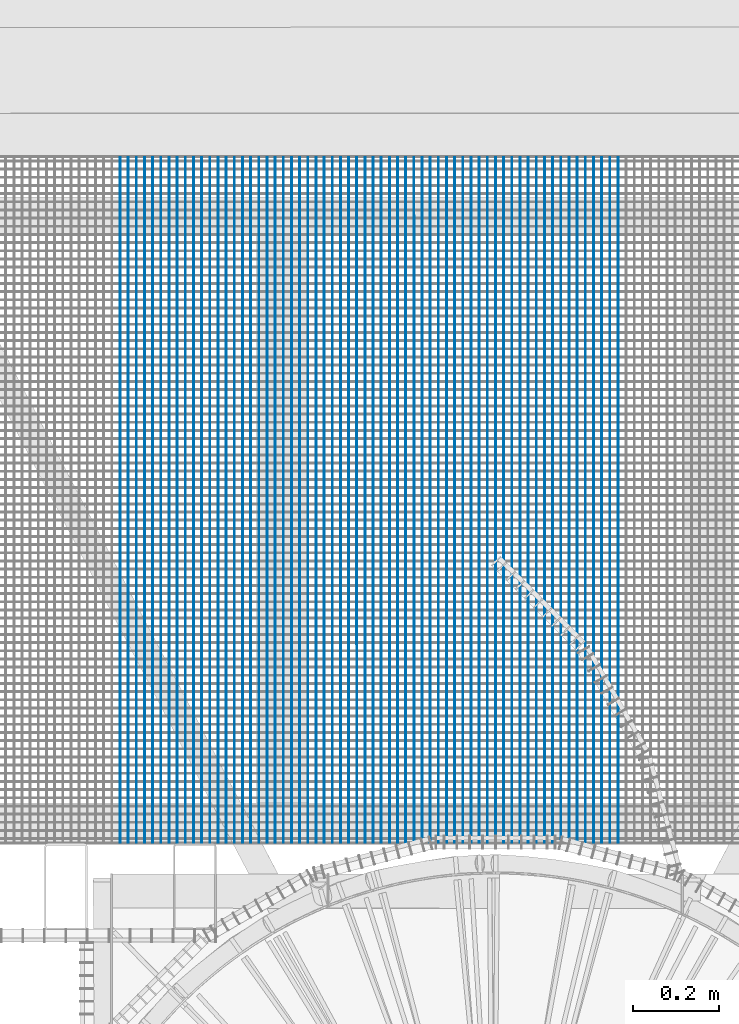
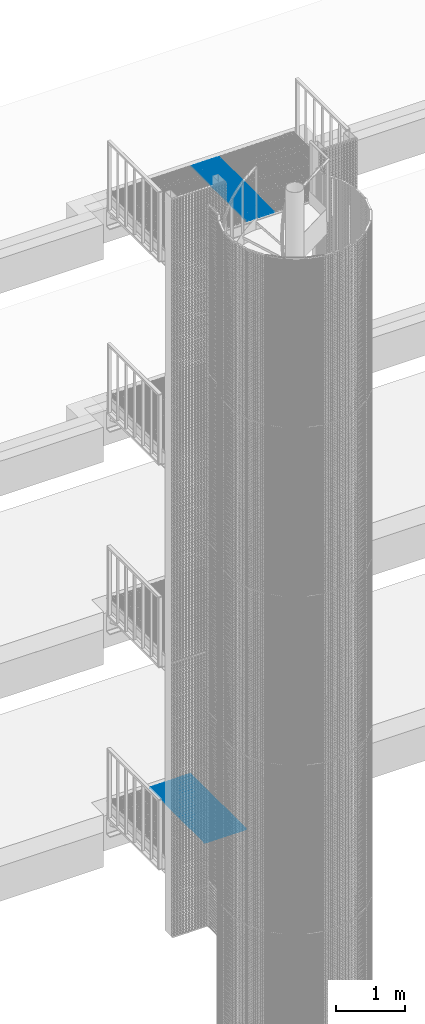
# One storey, part 96 of 1183: 62 beams, 2 elements without a shape of their own.
"""IFC2X3 building model written with IfcOpenShell, lengths in millimetres."""

from ifc_helpers import new_model, si_unit, frame, origin_with_axes, origin_2d_with_axis, place, context, subcontext, project, spatial, rectangle, extrude, material, type_object, element, aggregate, save


model = new_model("IFC2X3")

# Units and contexts
model_context = context("Model", 3, precision=1e-05, world=origin_with_axes())
body_context = subcontext(model_context, "Body", "Model", "MODEL_VIEW")
ifc_project = project(units=[si_unit("LENGTHUNIT", "METRE", prefix="MILLI"), si_unit("AREAUNIT", "SQUARE_METRE"), si_unit("VOLUMEUNIT", "CUBIC_METRE"), si_unit("MASSUNIT", "GRAM", prefix="KILO"), si_unit("TIMEUNIT", "SECOND"), si_unit("PLANEANGLEUNIT", "RADIAN"), si_unit("SOLIDANGLEUNIT", "STERADIAN"), si_unit("THERMODYNAMICTEMPERATUREUNIT", "DEGREE_CELSIUS"), si_unit("LUMINOUSINTENSITYUNIT", "LUMEN")], contexts=[model_context])

# Site, building, storey
site_placement = place(None, origin_with_axes())
site = spatial("IfcSite", under=ifc_project, at=site_placement, Name="Undefined", CompositionType="ELEMENT")
building_placement = place(site_placement, origin_with_axes())
building = spatial("IfcBuilding", under=site, at=building_placement, Name="Undefined", CompositionType="ELEMENT")
storey_placement = place(building_placement, origin_with_axes())
storey = spatial("IfcBuildingStorey", under=building, at=storey_placement, Name="Undefined", CompositionType="ELEMENT", Elevation=0.0)

# Assembly, beams
assembly_1_placement = place(storey_placement, origin_with_axes())
assembly_1 = element("IfcElementAssembly", 1, at=assembly_1_placement, inside=storey, Name="BORDURE", AssemblyPlace="NOTDEFINED", PredefinedType="NOTDEFINED")
ifc_material = material(Name="STEEL/S235JR")
beam_type = type_object("IfcBeamType", Name="PL2*10", PredefinedType="NOTDEFINED")
beam_1_placement = place(assembly_1_placement, frame((21429.115424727, 1102.00147736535, 17285.0), z_axis=(0.0, 0.0, 1.0), x_axis=(-4.50599999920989e-06, 0.999999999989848, 0.0)))
beam_1 = element("IfcBeam", 2, at=beam_1_placement, type_object=beam_type, material=ifc_material, Name="ENTRETOISE", context=body_context, shape_type="SweptSolid", body=[
    extrude(rectangle(XDim=2.0, YDim=10.0, at=origin_2d_with_axis()), frame((1596.0000000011, -1.35186458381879e-18, -7.27595761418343e-12), z_axis=(-1.0, 0.0, 0.0), x_axis=(0.0, -1.0, 0.0)), (0.0, 0.0, 1.0), 1596.0),
])
beam_2_placement = place(assembly_1_placement, frame((21448.1154247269, 1102.0015708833, 17285.0), z_axis=(0.0, 0.0, 1.0), x_axis=(-4.50599999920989e-06, 0.999999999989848, 0.0)))
beam_2 = element("IfcBeam", 3, at=beam_2_placement, type_object=beam_type, material=ifc_material, Name="ENTRETOISE", context=body_context, shape_type="SweptSolid", body=[
    extrude(rectangle(XDim=2.0, YDim=10.0, at=origin_2d_with_axis()), frame((1596.0000000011, -1.35186458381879e-18, -7.27595761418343e-12), z_axis=(-1.0, 0.0, 0.0), x_axis=(0.0, -1.0, 0.0)), (0.0, 0.0, 1.0), 1596.0),
])
beam_3_placement = place(assembly_1_placement, frame((21467.1154247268, 1102.00166440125, 17285.0), z_axis=(0.0, 0.0, 1.0), x_axis=(-4.50599999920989e-06, 0.999999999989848, 0.0)))
beam_3 = element("IfcBeam", 4, at=beam_3_placement, type_object=beam_type, material=ifc_material, Name="ENTRETOISE", context=body_context, shape_type="SweptSolid", body=[
    extrude(rectangle(XDim=2.0, YDim=10.0, at=origin_2d_with_axis()), frame((1596.0000000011, -1.35186458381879e-18, -7.27595761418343e-12), z_axis=(-1.0, 0.0, 0.0), x_axis=(0.0, -1.0, 0.0)), (0.0, 0.0, 1.0), 1596.0),
])
beam_4_placement = place(assembly_1_placement, frame((21486.1154247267, 1102.0017579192, 17285.0), z_axis=(0.0, 0.0, 1.0), x_axis=(-4.50599999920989e-06, 0.999999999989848, 0.0)))
beam_4 = element("IfcBeam", 5, at=beam_4_placement, type_object=beam_type, material=ifc_material, Name="ENTRETOISE", context=body_context, shape_type="SweptSolid", body=[
    extrude(rectangle(XDim=2.0, YDim=10.0, at=origin_2d_with_axis()), frame((1596.0000000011, -1.35186458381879e-18, -7.27595761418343e-12), z_axis=(-1.0, 0.0, 0.0), x_axis=(0.0, -1.0, 0.0)), (0.0, 0.0, 1.0), 1596.0),
])
beam_5_placement = place(assembly_1_placement, frame((21505.1154247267, 1102.00185143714, 17285.0), z_axis=(0.0, 0.0, 1.0), x_axis=(-4.50599999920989e-06, 0.999999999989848, 0.0)))
beam_5 = element("IfcBeam", 6, at=beam_5_placement, type_object=beam_type, material=ifc_material, Name="ENTRETOISE", context=body_context, shape_type="SweptSolid", body=[
    extrude(rectangle(XDim=2.0, YDim=10.0, at=origin_2d_with_axis()), frame((1596.0000000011, -1.35186458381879e-18, -7.27595761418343e-12), z_axis=(-1.0, 0.0, 0.0), x_axis=(0.0, -1.0, 0.0)), (0.0, 0.0, 1.0), 1596.0),
])
beam_6_placement = place(assembly_1_placement, frame((21524.1154247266, 1102.00194495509, 17285.0), z_axis=(0.0, 0.0, 1.0), x_axis=(-4.50599999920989e-06, 0.999999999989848, 0.0)))
beam_6 = element("IfcBeam", 7, at=beam_6_placement, type_object=beam_type, material=ifc_material, Name="ENTRETOISE", context=body_context, shape_type="SweptSolid", body=[
    extrude(rectangle(XDim=2.0, YDim=10.0, at=origin_2d_with_axis()), frame((1596.0000000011, -1.35186458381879e-18, -7.27595761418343e-12), z_axis=(-1.0, 0.0, 0.0), x_axis=(0.0, -1.0, 0.0)), (0.0, 0.0, 1.0), 1596.0),
])
beam_7_placement = place(assembly_1_placement, frame((21543.1154247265, 1102.00203847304, 17285.0), z_axis=(0.0, 0.0, 1.0), x_axis=(-4.50599999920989e-06, 0.999999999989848, 0.0)))
beam_7 = element("IfcBeam", 8, at=beam_7_placement, type_object=beam_type, material=ifc_material, Name="ENTRETOISE", context=body_context, shape_type="SweptSolid", body=[
    extrude(rectangle(XDim=2.0, YDim=10.0, at=origin_2d_with_axis()), frame((1596.0000000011, -1.35186458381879e-18, -7.27595761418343e-12), z_axis=(-1.0, 0.0, 0.0), x_axis=(0.0, -1.0, 0.0)), (0.0, 0.0, 1.0), 1596.0),
])
beam_8_placement = place(assembly_1_placement, frame((21562.1154247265, 1102.00213199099, 17285.0), z_axis=(0.0, 0.0, 1.0), x_axis=(-4.50599999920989e-06, 0.999999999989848, 0.0)))
beam_8 = element("IfcBeam", 9, at=beam_8_placement, type_object=beam_type, material=ifc_material, Name="ENTRETOISE", context=body_context, shape_type="SweptSolid", body=[
    extrude(rectangle(XDim=2.0, YDim=10.0, at=origin_2d_with_axis()), frame((1596.0000000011, -1.35186458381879e-18, -7.27595761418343e-12), z_axis=(-1.0, 0.0, 0.0), x_axis=(0.0, -1.0, 0.0)), (0.0, 0.0, 1.0), 1596.0),
])
beam_9_placement = place(assembly_1_placement, frame((21581.1154247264, 1102.00222550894, 17285.0), z_axis=(0.0, 0.0, 1.0), x_axis=(-4.50599999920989e-06, 0.999999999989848, 0.0)))
beam_9 = element("IfcBeam", 10, at=beam_9_placement, type_object=beam_type, material=ifc_material, Name="ENTRETOISE", context=body_context, shape_type="SweptSolid", body=[
    extrude(rectangle(XDim=2.0, YDim=10.0, at=origin_2d_with_axis()), frame((1596.0000000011, -1.35186458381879e-18, -7.27595761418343e-12), z_axis=(-1.0, 0.0, 0.0), x_axis=(0.0, -1.0, 0.0)), (0.0, 0.0, 1.0), 1596.0),
])
beam_10_placement = place(assembly_1_placement, frame((21600.1154247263, 1102.00231902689, 17285.0), z_axis=(0.0, 0.0, 1.0), x_axis=(-4.50599999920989e-06, 0.999999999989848, 0.0)))
beam_10 = element("IfcBeam", 11, at=beam_10_placement, type_object=beam_type, material=ifc_material, Name="ENTRETOISE", context=body_context, shape_type="SweptSolid", body=[
    extrude(rectangle(XDim=2.0, YDim=10.0, at=origin_2d_with_axis()), frame((1596.0000000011, -1.35186458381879e-18, -7.27595761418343e-12), z_axis=(-1.0, 0.0, 0.0), x_axis=(0.0, -1.0, 0.0)), (0.0, 0.0, 1.0), 1596.0),
])
beam_11_placement = place(assembly_1_placement, frame((21619.1154247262, 1102.00241254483, 17285.0), z_axis=(0.0, 0.0, 1.0), x_axis=(-4.50599999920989e-06, 0.999999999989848, 0.0)))
beam_11 = element("IfcBeam", 12, at=beam_11_placement, type_object=beam_type, material=ifc_material, Name="ENTRETOISE", context=body_context, shape_type="SweptSolid", body=[
    extrude(rectangle(XDim=2.0, YDim=10.0, at=origin_2d_with_axis()), frame((1596.0000000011, -1.35186458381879e-18, -7.27595761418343e-12), z_axis=(-1.0, 0.0, 0.0), x_axis=(0.0, -1.0, 0.0)), (0.0, 0.0, 1.0), 1596.0),
])
beam_12_placement = place(assembly_1_placement, frame((21638.1154247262, 1102.00250606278, 17285.0), z_axis=(0.0, 0.0, 1.0), x_axis=(-4.50599999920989e-06, 0.999999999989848, 0.0)))
beam_12 = element("IfcBeam", 13, at=beam_12_placement, type_object=beam_type, material=ifc_material, Name="ENTRETOISE", context=body_context, shape_type="SweptSolid", body=[
    extrude(rectangle(XDim=2.0, YDim=10.0, at=origin_2d_with_axis()), frame((1596.0000000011, -1.35186458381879e-18, -7.27595761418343e-12), z_axis=(-1.0, 0.0, 0.0), x_axis=(0.0, -1.0, 0.0)), (0.0, 0.0, 1.0), 1596.0),
])
beam_13_placement = place(assembly_1_placement, frame((21657.1154247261, 1102.00259958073, 17285.0), z_axis=(0.0, 0.0, 1.0), x_axis=(-4.50599999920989e-06, 0.999999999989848, 0.0)))
beam_13 = element("IfcBeam", 14, at=beam_13_placement, type_object=beam_type, material=ifc_material, Name="ENTRETOISE", context=body_context, shape_type="SweptSolid", body=[
    extrude(rectangle(XDim=2.0, YDim=10.0, at=origin_2d_with_axis()), frame((1596.0000000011, -1.35186458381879e-18, -7.27595761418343e-12), z_axis=(-1.0, 0.0, 0.0), x_axis=(0.0, -1.0, 0.0)), (0.0, 0.0, 1.0), 1596.0),
])
beam_14_placement = place(assembly_1_placement, frame((21676.115424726, 1102.00269309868, 17285.0), z_axis=(0.0, 0.0, 1.0), x_axis=(-4.50599999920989e-06, 0.999999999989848, 0.0)))
beam_14 = element("IfcBeam", 15, at=beam_14_placement, type_object=beam_type, material=ifc_material, Name="ENTRETOISE", context=body_context, shape_type="SweptSolid", body=[
    extrude(rectangle(XDim=2.0, YDim=10.0, at=origin_2d_with_axis()), frame((1596.0000000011, -1.35186458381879e-18, -7.27595761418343e-12), z_axis=(-1.0, 0.0, 0.0), x_axis=(0.0, -1.0, 0.0)), (0.0, 0.0, 1.0), 1596.0),
])
beam_15_placement = place(assembly_1_placement, frame((21695.115424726, 1102.00278661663, 17285.0), z_axis=(0.0, 0.0, 1.0), x_axis=(-4.50599999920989e-06, 0.999999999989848, 0.0)))
beam_15 = element("IfcBeam", 16, at=beam_15_placement, type_object=beam_type, material=ifc_material, Name="ENTRETOISE", context=body_context, shape_type="SweptSolid", body=[
    extrude(rectangle(XDim=2.0, YDim=10.0, at=origin_2d_with_axis()), frame((1596.0000000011, -1.35186458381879e-18, -7.27595761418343e-12), z_axis=(-1.0, 0.0, 0.0), x_axis=(0.0, -1.0, 0.0)), (0.0, 0.0, 1.0), 1596.0),
])
beam_16_placement = place(assembly_1_placement, frame((21714.1154247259, 1102.00288013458, 17285.0), z_axis=(0.0, 0.0, 1.0), x_axis=(-4.50599999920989e-06, 0.999999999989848, 0.0)))
beam_16 = element("IfcBeam", 17, at=beam_16_placement, type_object=beam_type, material=ifc_material, Name="ENTRETOISE", context=body_context, shape_type="SweptSolid", body=[
    extrude(rectangle(XDim=2.0, YDim=10.0, at=origin_2d_with_axis()), frame((1596.0000000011, -1.35186458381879e-18, -7.27595761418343e-12), z_axis=(-1.0, 0.0, 0.0), x_axis=(0.0, -1.0, 0.0)), (0.0, 0.0, 1.0), 1596.0),
])
beam_17_placement = place(assembly_1_placement, frame((21733.1154247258, 1102.00297365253, 17285.0), z_axis=(0.0, 0.0, 1.0), x_axis=(-4.50599999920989e-06, 0.999999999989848, 0.0)))
beam_17 = element("IfcBeam", 18, at=beam_17_placement, type_object=beam_type, material=ifc_material, Name="ENTRETOISE", context=body_context, shape_type="SweptSolid", body=[
    extrude(rectangle(XDim=2.0, YDim=10.0, at=origin_2d_with_axis()), frame((1596.0000000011, -1.35186458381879e-18, -7.27595761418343e-12), z_axis=(-1.0, 0.0, 0.0), x_axis=(0.0, -1.0, 0.0)), (0.0, 0.0, 1.0), 1596.0),
])
beam_18_placement = place(assembly_1_placement, frame((21752.1154247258, 1102.00306717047, 17285.0), z_axis=(0.0, 0.0, 1.0), x_axis=(-4.50599999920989e-06, 0.999999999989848, 0.0)))
beam_18 = element("IfcBeam", 19, at=beam_18_placement, type_object=beam_type, material=ifc_material, Name="ENTRETOISE", context=body_context, shape_type="SweptSolid", body=[
    extrude(rectangle(XDim=2.0, YDim=10.0, at=origin_2d_with_axis()), frame((1596.0000000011, -1.35186458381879e-18, -7.27595761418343e-12), z_axis=(-1.0, 0.0, 0.0), x_axis=(0.0, -1.0, 0.0)), (0.0, 0.0, 1.0), 1596.0),
])
beam_19_placement = place(assembly_1_placement, frame((21771.1154247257, 1102.00316068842, 17285.0), z_axis=(0.0, 0.0, 1.0), x_axis=(-4.50599999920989e-06, 0.999999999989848, 0.0)))
beam_19 = element("IfcBeam", 20, at=beam_19_placement, type_object=beam_type, material=ifc_material, Name="ENTRETOISE", context=body_context, shape_type="SweptSolid", body=[
    extrude(rectangle(XDim=2.0, YDim=10.0, at=origin_2d_with_axis()), frame((1596.0000000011, -1.35186458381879e-18, -7.27595761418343e-12), z_axis=(-1.0, 0.0, 0.0), x_axis=(0.0, -1.0, 0.0)), (0.0, 0.0, 1.0), 1596.0),
])
beam_20_placement = place(assembly_1_placement, frame((21790.1154247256, 1102.00325420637, 17285.0), z_axis=(0.0, 0.0, 1.0), x_axis=(-4.50599999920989e-06, 0.999999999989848, 0.0)))
beam_20 = element("IfcBeam", 21, at=beam_20_placement, type_object=beam_type, material=ifc_material, Name="ENTRETOISE", context=body_context, shape_type="SweptSolid", body=[
    extrude(rectangle(XDim=2.0, YDim=10.0, at=origin_2d_with_axis()), frame((1596.0000000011, -1.35186458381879e-18, -7.27595761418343e-12), z_axis=(-1.0, 0.0, 0.0), x_axis=(0.0, -1.0, 0.0)), (0.0, 0.0, 1.0), 1596.0),
])
beam_21_placement = place(assembly_1_placement, frame((21809.1154247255, 1102.00334772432, 17285.0), z_axis=(0.0, 0.0, 1.0), x_axis=(-4.50599999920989e-06, 0.999999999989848, 0.0)))
beam_21 = element("IfcBeam", 22, at=beam_21_placement, type_object=beam_type, material=ifc_material, Name="ENTRETOISE", context=body_context, shape_type="SweptSolid", body=[
    extrude(rectangle(XDim=2.0, YDim=10.0, at=origin_2d_with_axis()), frame((1596.0000000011, -1.35186458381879e-18, -7.27595761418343e-12), z_axis=(-1.0, 0.0, 0.0), x_axis=(0.0, -1.0, 0.0)), (0.0, 0.0, 1.0), 1596.0),
])
beam_22_placement = place(assembly_1_placement, frame((21828.1154247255, 1102.00344124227, 17285.0), z_axis=(0.0, 0.0, 1.0), x_axis=(-4.50599999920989e-06, 0.999999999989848, 0.0)))
beam_22 = element("IfcBeam", 23, at=beam_22_placement, type_object=beam_type, material=ifc_material, Name="ENTRETOISE", context=body_context, shape_type="SweptSolid", body=[
    extrude(rectangle(XDim=2.0, YDim=10.0, at=origin_2d_with_axis()), frame((1596.0000000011, -1.35186458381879e-18, -7.27595761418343e-12), z_axis=(-1.0, 0.0, 0.0), x_axis=(0.0, -1.0, 0.0)), (0.0, 0.0, 1.0), 1596.0),
])
beam_23_placement = place(assembly_1_placement, frame((21847.1154247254, 1102.00353476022, 17285.0), z_axis=(0.0, 0.0, 1.0), x_axis=(-4.50599999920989e-06, 0.999999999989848, 0.0)))
beam_23 = element("IfcBeam", 24, at=beam_23_placement, type_object=beam_type, material=ifc_material, Name="ENTRETOISE", context=body_context, shape_type="SweptSolid", body=[
    extrude(rectangle(XDim=2.0, YDim=10.0, at=origin_2d_with_axis()), frame((1596.0000000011, -1.35186458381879e-18, -7.27595761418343e-12), z_axis=(-1.0, 0.0, 0.0), x_axis=(0.0, -1.0, 0.0)), (0.0, 0.0, 1.0), 1596.0),
])
beam_24_placement = place(assembly_1_placement, frame((21866.1154247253, 1102.00362827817, 17285.0), z_axis=(0.0, 0.0, 1.0), x_axis=(-4.50599999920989e-06, 0.999999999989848, 0.0)))
beam_24 = element("IfcBeam", 25, at=beam_24_placement, type_object=beam_type, material=ifc_material, Name="ENTRETOISE", context=body_context, shape_type="SweptSolid", body=[
    extrude(rectangle(XDim=2.0, YDim=10.0, at=origin_2d_with_axis()), frame((1596.0000000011, -1.35186458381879e-18, -7.27595761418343e-12), z_axis=(-1.0, 0.0, 0.0), x_axis=(0.0, -1.0, 0.0)), (0.0, 0.0, 1.0), 1596.0),
])
beam_25_placement = place(assembly_1_placement, frame((21885.1154247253, 1102.00372179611, 17285.0), z_axis=(0.0, 0.0, 1.0), x_axis=(-4.50599999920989e-06, 0.999999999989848, 0.0)))
beam_25 = element("IfcBeam", 26, at=beam_25_placement, type_object=beam_type, material=ifc_material, Name="ENTRETOISE", context=body_context, shape_type="SweptSolid", body=[
    extrude(rectangle(XDim=2.0, YDim=10.0, at=origin_2d_with_axis()), frame((1596.0000000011, -1.35186458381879e-18, -7.27595761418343e-12), z_axis=(-1.0, 0.0, 0.0), x_axis=(0.0, -1.0, 0.0)), (0.0, 0.0, 1.0), 1596.0),
])
aggregate(assembly_1, [beam_1, beam_2, beam_3, beam_4, beam_5, beam_6, beam_7, beam_8, beam_9, beam_10, beam_11, beam_12, beam_13, beam_14, beam_15, beam_16, beam_17, beam_18, beam_19, beam_20, beam_21, beam_22, beam_23, beam_24, beam_25])

assembly_2_placement = place(storey_placement, origin_with_axes())
assembly_2 = element("IfcElementAssembly", 27, at=assembly_2_placement, inside=storey, Name="BORDURE", AssemblyPlace="NOTDEFINED", PredefinedType="NOTDEFINED")
beam_26_placement = place(assembly_2_placement, frame((20726.1154247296, 1101.99801720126, 6485.0), z_axis=(0.0, 0.0, 1.0), x_axis=(-4.50599999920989e-06, 0.999999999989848, 0.0)))
beam_26 = element("IfcBeam", 28, at=beam_26_placement, type_object=beam_type, material=ifc_material, Name="ENTRETOISE", context=body_context, shape_type="SweptSolid", body=[
    extrude(rectangle(XDim=2.0, YDim=10.0, at=origin_2d_with_axis()), frame((1596.0000000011, -1.35186458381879e-18, -7.27595761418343e-12), z_axis=(-1.0, 0.0, 0.0), x_axis=(0.0, -1.0, 0.0)), (0.0, 0.0, 1.0), 1596.0),
])
beam_27_placement = place(assembly_2_placement, frame((20745.1154247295, 1101.99811071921, 6485.0), z_axis=(0.0, 0.0, 1.0), x_axis=(-4.50599999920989e-06, 0.999999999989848, 0.0)))
beam_27 = element("IfcBeam", 29, at=beam_27_placement, type_object=beam_type, material=ifc_material, Name="ENTRETOISE", context=body_context, shape_type="SweptSolid", body=[
    extrude(rectangle(XDim=2.0, YDim=10.0, at=origin_2d_with_axis()), frame((1596.0000000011, -1.35186458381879e-18, -7.27595761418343e-12), z_axis=(-1.0, 0.0, 0.0), x_axis=(0.0, -1.0, 0.0)), (0.0, 0.0, 1.0), 1596.0),
])
beam_28_placement = place(assembly_2_placement, frame((20764.1154247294, 1101.99820423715, 6485.0), z_axis=(0.0, 0.0, 1.0), x_axis=(-4.50599999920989e-06, 0.999999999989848, 0.0)))
beam_28 = element("IfcBeam", 30, at=beam_28_placement, type_object=beam_type, material=ifc_material, Name="ENTRETOISE", context=body_context, shape_type="SweptSolid", body=[
    extrude(rectangle(XDim=2.0, YDim=10.0, at=origin_2d_with_axis()), frame((1596.0000000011, -1.35186458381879e-18, -7.27595761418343e-12), z_axis=(-1.0, 0.0, 0.0), x_axis=(0.0, -1.0, 0.0)), (0.0, 0.0, 1.0), 1596.0),
])
beam_29_placement = place(assembly_2_placement, frame((20783.1154247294, 1101.9982977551, 6485.0), z_axis=(0.0, 0.0, 1.0), x_axis=(-4.50599999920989e-06, 0.999999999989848, 0.0)))
beam_29 = element("IfcBeam", 31, at=beam_29_placement, type_object=beam_type, material=ifc_material, Name="ENTRETOISE", context=body_context, shape_type="SweptSolid", body=[
    extrude(rectangle(XDim=2.0, YDim=10.0, at=origin_2d_with_axis()), frame((1596.0000000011, -1.35186458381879e-18, -7.27595761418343e-12), z_axis=(-1.0, 0.0, 0.0), x_axis=(0.0, -1.0, 0.0)), (0.0, 0.0, 1.0), 1596.0),
])
beam_30_placement = place(assembly_2_placement, frame((20802.1154247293, 1101.99839127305, 6485.0), z_axis=(0.0, 0.0, 1.0), x_axis=(-4.50599999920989e-06, 0.999999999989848, 0.0)))
beam_30 = element("IfcBeam", 32, at=beam_30_placement, type_object=beam_type, material=ifc_material, Name="ENTRETOISE", context=body_context, shape_type="SweptSolid", body=[
    extrude(rectangle(XDim=2.0, YDim=10.0, at=origin_2d_with_axis()), frame((1596.0000000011, -1.35186458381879e-18, -7.27595761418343e-12), z_axis=(-1.0, 0.0, 0.0), x_axis=(0.0, -1.0, 0.0)), (0.0, 0.0, 1.0), 1596.0),
])
beam_31_placement = place(assembly_2_placement, frame((20821.1154247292, 1101.998484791, 6485.0), z_axis=(0.0, 0.0, 1.0), x_axis=(-4.50599999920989e-06, 0.999999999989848, 0.0)))
beam_31 = element("IfcBeam", 33, at=beam_31_placement, type_object=beam_type, material=ifc_material, Name="ENTRETOISE", context=body_context, shape_type="SweptSolid", body=[
    extrude(rectangle(XDim=2.0, YDim=10.0, at=origin_2d_with_axis()), frame((1596.0000000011, -1.35186458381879e-18, -7.27595761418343e-12), z_axis=(-1.0, 0.0, 0.0), x_axis=(0.0, -1.0, 0.0)), (0.0, 0.0, 1.0), 1596.0),
])
beam_32_placement = place(assembly_2_placement, frame((20840.1154247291, 1101.99857830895, 6485.0), z_axis=(0.0, 0.0, 1.0), x_axis=(-4.50599999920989e-06, 0.999999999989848, 0.0)))
beam_32 = element("IfcBeam", 34, at=beam_32_placement, type_object=beam_type, material=ifc_material, Name="ENTRETOISE", context=body_context, shape_type="SweptSolid", body=[
    extrude(rectangle(XDim=2.0, YDim=10.0, at=origin_2d_with_axis()), frame((1596.0000000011, -1.35186458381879e-18, -7.27595761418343e-12), z_axis=(-1.0, 0.0, 0.0), x_axis=(0.0, -1.0, 0.0)), (0.0, 0.0, 1.0), 1596.0),
])
beam_33_placement = place(assembly_2_placement, frame((20859.1154247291, 1101.9986718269, 6485.0), z_axis=(0.0, 0.0, 1.0), x_axis=(-4.50599999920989e-06, 0.999999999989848, 0.0)))
beam_33 = element("IfcBeam", 35, at=beam_33_placement, type_object=beam_type, material=ifc_material, Name="ENTRETOISE", context=body_context, shape_type="SweptSolid", body=[
    extrude(rectangle(XDim=2.0, YDim=10.0, at=origin_2d_with_axis()), frame((1596.0000000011, -1.35186458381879e-18, -7.27595761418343e-12), z_axis=(-1.0, 0.0, 0.0), x_axis=(0.0, -1.0, 0.0)), (0.0, 0.0, 1.0), 1596.0),
])
beam_34_placement = place(assembly_2_placement, frame((20878.115424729, 1101.99876534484, 6485.0), z_axis=(0.0, 0.0, 1.0), x_axis=(-4.50599999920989e-06, 0.999999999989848, 0.0)))
beam_34 = element("IfcBeam", 36, at=beam_34_placement, type_object=beam_type, material=ifc_material, Name="ENTRETOISE", context=body_context, shape_type="SweptSolid", body=[
    extrude(rectangle(XDim=2.0, YDim=10.0, at=origin_2d_with_axis()), frame((1596.0000000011, -1.35186458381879e-18, -7.27595761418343e-12), z_axis=(-1.0, 0.0, 0.0), x_axis=(0.0, -1.0, 0.0)), (0.0, 0.0, 1.0), 1596.0),
])
beam_35_placement = place(assembly_2_placement, frame((20897.1154247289, 1101.99885886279, 6485.0), z_axis=(0.0, 0.0, 1.0), x_axis=(-4.50599999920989e-06, 0.999999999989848, 0.0)))
beam_35 = element("IfcBeam", 37, at=beam_35_placement, type_object=beam_type, material=ifc_material, Name="ENTRETOISE", context=body_context, shape_type="SweptSolid", body=[
    extrude(rectangle(XDim=2.0, YDim=10.0, at=origin_2d_with_axis()), frame((1596.0000000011, -1.35186458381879e-18, -7.27595761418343e-12), z_axis=(-1.0, 0.0, 0.0), x_axis=(0.0, -1.0, 0.0)), (0.0, 0.0, 1.0), 1596.0),
])
beam_36_placement = place(assembly_2_placement, frame((20916.1154247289, 1101.99895238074, 6485.0), z_axis=(0.0, 0.0, 1.0), x_axis=(-4.50599999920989e-06, 0.999999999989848, 0.0)))
beam_36 = element("IfcBeam", 38, at=beam_36_placement, type_object=beam_type, material=ifc_material, Name="ENTRETOISE", context=body_context, shape_type="SweptSolid", body=[
    extrude(rectangle(XDim=2.0, YDim=10.0, at=origin_2d_with_axis()), frame((1596.0000000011, -1.35186458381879e-18, -7.27595761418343e-12), z_axis=(-1.0, 0.0, 0.0), x_axis=(0.0, -1.0, 0.0)), (0.0, 0.0, 1.0), 1596.0),
])
beam_37_placement = place(assembly_2_placement, frame((20935.1154247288, 1101.99904589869, 6485.0), z_axis=(0.0, 0.0, 1.0), x_axis=(-4.50599999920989e-06, 0.999999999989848, 0.0)))
beam_37 = element("IfcBeam", 39, at=beam_37_placement, type_object=beam_type, material=ifc_material, Name="ENTRETOISE", context=body_context, shape_type="SweptSolid", body=[
    extrude(rectangle(XDim=2.0, YDim=10.0, at=origin_2d_with_axis()), frame((1596.0000000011, -1.35186458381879e-18, -7.27595761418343e-12), z_axis=(-1.0, 0.0, 0.0), x_axis=(0.0, -1.0, 0.0)), (0.0, 0.0, 1.0), 1596.0),
])
beam_38_placement = place(assembly_2_placement, frame((20954.1154247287, 1101.99913941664, 6485.0), z_axis=(0.0, 0.0, 1.0), x_axis=(-4.50599999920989e-06, 0.999999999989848, 0.0)))
beam_38 = element("IfcBeam", 40, at=beam_38_placement, type_object=beam_type, material=ifc_material, Name="ENTRETOISE", context=body_context, shape_type="SweptSolid", body=[
    extrude(rectangle(XDim=2.0, YDim=10.0, at=origin_2d_with_axis()), frame((1596.0000000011, -1.35186458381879e-18, -7.27595761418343e-12), z_axis=(-1.0, 0.0, 0.0), x_axis=(0.0, -1.0, 0.0)), (0.0, 0.0, 1.0), 1596.0),
])
beam_39_placement = place(assembly_2_placement, frame((20973.1154247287, 1101.99923293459, 6485.0), z_axis=(0.0, 0.0, 1.0), x_axis=(-4.50599999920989e-06, 0.999999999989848, 0.0)))
beam_39 = element("IfcBeam", 41, at=beam_39_placement, type_object=beam_type, material=ifc_material, Name="ENTRETOISE", context=body_context, shape_type="SweptSolid", body=[
    extrude(rectangle(XDim=2.0, YDim=10.0, at=origin_2d_with_axis()), frame((1596.0000000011, -1.35186458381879e-18, -7.27595761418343e-12), z_axis=(-1.0, 0.0, 0.0), x_axis=(0.0, -1.0, 0.0)), (0.0, 0.0, 1.0), 1596.0),
])
beam_40_placement = place(assembly_2_placement, frame((20992.1154247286, 1101.99932645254, 6485.0), z_axis=(0.0, 0.0, 1.0), x_axis=(-4.50599999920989e-06, 0.999999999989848, 0.0)))
beam_40 = element("IfcBeam", 42, at=beam_40_placement, type_object=beam_type, material=ifc_material, Name="ENTRETOISE", context=body_context, shape_type="SweptSolid", body=[
    extrude(rectangle(XDim=2.0, YDim=10.0, at=origin_2d_with_axis()), frame((1596.0000000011, -1.35186458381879e-18, -7.27595761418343e-12), z_axis=(-1.0, 0.0, 0.0), x_axis=(0.0, -1.0, 0.0)), (0.0, 0.0, 1.0), 1596.0),
])
beam_41_placement = place(assembly_2_placement, frame((21011.1154247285, 1101.99941997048, 6485.0), z_axis=(0.0, 0.0, 1.0), x_axis=(-4.50599999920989e-06, 0.999999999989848, 0.0)))
beam_41 = element("IfcBeam", 43, at=beam_41_placement, type_object=beam_type, material=ifc_material, Name="ENTRETOISE", context=body_context, shape_type="SweptSolid", body=[
    extrude(rectangle(XDim=2.0, YDim=10.0, at=origin_2d_with_axis()), frame((1596.0000000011, -1.35186458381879e-18, -7.27595761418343e-12), z_axis=(-1.0, 0.0, 0.0), x_axis=(0.0, -1.0, 0.0)), (0.0, 0.0, 1.0), 1596.0),
])
beam_42_placement = place(assembly_2_placement, frame((21030.1154247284, 1101.99951348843, 6485.0), z_axis=(0.0, 0.0, 1.0), x_axis=(-4.50599999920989e-06, 0.999999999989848, 0.0)))
beam_42 = element("IfcBeam", 44, at=beam_42_placement, type_object=beam_type, material=ifc_material, Name="ENTRETOISE", context=body_context, shape_type="SweptSolid", body=[
    extrude(rectangle(XDim=2.0, YDim=10.0, at=origin_2d_with_axis()), frame((1596.0000000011, -1.35186458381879e-18, -7.27595761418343e-12), z_axis=(-1.0, 0.0, 0.0), x_axis=(0.0, -1.0, 0.0)), (0.0, 0.0, 1.0), 1596.0),
])
beam_43_placement = place(assembly_2_placement, frame((21049.1154247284, 1101.99960700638, 6485.0), z_axis=(0.0, 0.0, 1.0), x_axis=(-4.50599999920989e-06, 0.999999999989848, 0.0)))
beam_43 = element("IfcBeam", 45, at=beam_43_placement, type_object=beam_type, material=ifc_material, Name="ENTRETOISE", context=body_context, shape_type="SweptSolid", body=[
    extrude(rectangle(XDim=2.0, YDim=10.0, at=origin_2d_with_axis()), frame((1596.0000000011, -1.35186458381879e-18, -7.27595761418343e-12), z_axis=(-1.0, 0.0, 0.0), x_axis=(0.0, -1.0, 0.0)), (0.0, 0.0, 1.0), 1596.0),
])
beam_44_placement = place(assembly_2_placement, frame((21068.1154247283, 1101.99970052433, 6485.0), z_axis=(0.0, 0.0, 1.0), x_axis=(-4.50599999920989e-06, 0.999999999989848, 0.0)))
beam_44 = element("IfcBeam", 46, at=beam_44_placement, type_object=beam_type, material=ifc_material, Name="ENTRETOISE", context=body_context, shape_type="SweptSolid", body=[
    extrude(rectangle(XDim=2.0, YDim=10.0, at=origin_2d_with_axis()), frame((1596.0000000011, -1.35186458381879e-18, -7.27595761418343e-12), z_axis=(-1.0, 0.0, 0.0), x_axis=(0.0, -1.0, 0.0)), (0.0, 0.0, 1.0), 1596.0),
])
beam_45_placement = place(assembly_2_placement, frame((21087.1154247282, 1101.99979404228, 6485.0), z_axis=(0.0, 0.0, 1.0), x_axis=(-4.50599999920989e-06, 0.999999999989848, 0.0)))
beam_45 = element("IfcBeam", 47, at=beam_45_placement, type_object=beam_type, material=ifc_material, Name="ENTRETOISE", context=body_context, shape_type="SweptSolid", body=[
    extrude(rectangle(XDim=2.0, YDim=10.0, at=origin_2d_with_axis()), frame((1596.0000000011, -1.35186458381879e-18, -7.27595761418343e-12), z_axis=(-1.0, 0.0, 0.0), x_axis=(0.0, -1.0, 0.0)), (0.0, 0.0, 1.0), 1596.0),
])
beam_46_placement = place(assembly_2_placement, frame((21106.1154247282, 1101.99988756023, 6485.0), z_axis=(0.0, 0.0, 1.0), x_axis=(-4.50599999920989e-06, 0.999999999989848, 0.0)))
beam_46 = element("IfcBeam", 48, at=beam_46_placement, type_object=beam_type, material=ifc_material, Name="ENTRETOISE", context=body_context, shape_type="SweptSolid", body=[
    extrude(rectangle(XDim=2.0, YDim=10.0, at=origin_2d_with_axis()), frame((1596.0000000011, -1.35186458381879e-18, -7.27595761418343e-12), z_axis=(-1.0, 0.0, 0.0), x_axis=(0.0, -1.0, 0.0)), (0.0, 0.0, 1.0), 1596.0),
])
beam_47_placement = place(assembly_2_placement, frame((21125.1154247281, 1101.99998107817, 6485.0), z_axis=(0.0, 0.0, 1.0), x_axis=(-4.50599999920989e-06, 0.999999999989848, 0.0)))
beam_47 = element("IfcBeam", 49, at=beam_47_placement, type_object=beam_type, material=ifc_material, Name="ENTRETOISE", context=body_context, shape_type="SweptSolid", body=[
    extrude(rectangle(XDim=2.0, YDim=10.0, at=origin_2d_with_axis()), frame((1596.0000000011, -1.35186458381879e-18, -7.27595761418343e-12), z_axis=(-1.0, 0.0, 0.0), x_axis=(0.0, -1.0, 0.0)), (0.0, 0.0, 1.0), 1596.0),
])
beam_48_placement = place(assembly_2_placement, frame((21144.115424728, 1102.00007459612, 6485.0), z_axis=(0.0, 0.0, 1.0), x_axis=(-4.50599999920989e-06, 0.999999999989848, 0.0)))
beam_48 = element("IfcBeam", 50, at=beam_48_placement, type_object=beam_type, material=ifc_material, Name="ENTRETOISE", context=body_context, shape_type="SweptSolid", body=[
    extrude(rectangle(XDim=2.0, YDim=10.0, at=origin_2d_with_axis()), frame((1596.0000000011, -1.35186458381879e-18, -7.27595761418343e-12), z_axis=(-1.0, 0.0, 0.0), x_axis=(0.0, -1.0, 0.0)), (0.0, 0.0, 1.0), 1596.0),
])
beam_49_placement = place(assembly_2_placement, frame((21163.1154247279, 1102.00016811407, 6485.0), z_axis=(0.0, 0.0, 1.0), x_axis=(-4.50599999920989e-06, 0.999999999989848, 0.0)))
beam_49 = element("IfcBeam", 51, at=beam_49_placement, type_object=beam_type, material=ifc_material, Name="ENTRETOISE", context=body_context, shape_type="SweptSolid", body=[
    extrude(rectangle(XDim=2.0, YDim=10.0, at=origin_2d_with_axis()), frame((1596.0000000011, -1.35186458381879e-18, -7.27595761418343e-12), z_axis=(-1.0, 0.0, 0.0), x_axis=(0.0, -1.0, 0.0)), (0.0, 0.0, 1.0), 1596.0),
])
beam_50_placement = place(assembly_2_placement, frame((21182.1154247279, 1102.00026163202, 6485.0), z_axis=(0.0, 0.0, 1.0), x_axis=(-4.50599999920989e-06, 0.999999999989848, 0.0)))
beam_50 = element("IfcBeam", 52, at=beam_50_placement, type_object=beam_type, material=ifc_material, Name="ENTRETOISE", context=body_context, shape_type="SweptSolid", body=[
    extrude(rectangle(XDim=2.0, YDim=10.0, at=origin_2d_with_axis()), frame((1596.0000000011, -1.35186458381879e-18, -7.27595761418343e-12), z_axis=(-1.0, 0.0, 0.0), x_axis=(0.0, -1.0, 0.0)), (0.0, 0.0, 1.0), 1596.0),
])
beam_51_placement = place(assembly_2_placement, frame((21201.1154247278, 1102.00035514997, 6485.0), z_axis=(0.0, 0.0, 1.0), x_axis=(-4.50599999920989e-06, 0.999999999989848, 0.0)))
beam_51 = element("IfcBeam", 53, at=beam_51_placement, type_object=beam_type, material=ifc_material, Name="ENTRETOISE", context=body_context, shape_type="SweptSolid", body=[
    extrude(rectangle(XDim=2.0, YDim=10.0, at=origin_2d_with_axis()), frame((1596.0000000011, -1.35186458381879e-18, -7.27595761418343e-12), z_axis=(-1.0, 0.0, 0.0), x_axis=(0.0, -1.0, 0.0)), (0.0, 0.0, 1.0), 1596.0),
])
beam_52_placement = place(assembly_2_placement, frame((21220.1154247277, 1102.00044866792, 6485.0), z_axis=(0.0, 0.0, 1.0), x_axis=(-4.50599999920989e-06, 0.999999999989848, 0.0)))
beam_52 = element("IfcBeam", 54, at=beam_52_placement, type_object=beam_type, material=ifc_material, Name="ENTRETOISE", context=body_context, shape_type="SweptSolid", body=[
    extrude(rectangle(XDim=2.0, YDim=10.0, at=origin_2d_with_axis()), frame((1596.0000000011, -1.35186458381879e-18, -7.27595761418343e-12), z_axis=(-1.0, 0.0, 0.0), x_axis=(0.0, -1.0, 0.0)), (0.0, 0.0, 1.0), 1596.0),
])
beam_53_placement = place(assembly_2_placement, frame((21239.1154247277, 1102.00054218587, 6485.0), z_axis=(0.0, 0.0, 1.0), x_axis=(-4.50599999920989e-06, 0.999999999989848, 0.0)))
beam_53 = element("IfcBeam", 55, at=beam_53_placement, type_object=beam_type, material=ifc_material, Name="ENTRETOISE", context=body_context, shape_type="SweptSolid", body=[
    extrude(rectangle(XDim=2.0, YDim=10.0, at=origin_2d_with_axis()), frame((1596.0000000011, -1.35186458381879e-18, -7.27595761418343e-12), z_axis=(-1.0, 0.0, 0.0), x_axis=(0.0, -1.0, 0.0)), (0.0, 0.0, 1.0), 1596.0),
])
beam_54_placement = place(assembly_2_placement, frame((21258.1154247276, 1102.00063570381, 6485.0), z_axis=(0.0, 0.0, 1.0), x_axis=(-4.50599999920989e-06, 0.999999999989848, 0.0)))
beam_54 = element("IfcBeam", 56, at=beam_54_placement, type_object=beam_type, material=ifc_material, Name="ENTRETOISE", context=body_context, shape_type="SweptSolid", body=[
    extrude(rectangle(XDim=2.0, YDim=10.0, at=origin_2d_with_axis()), frame((1596.0000000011, -1.35186458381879e-18, -7.27595761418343e-12), z_axis=(-1.0, 0.0, 0.0), x_axis=(0.0, -1.0, 0.0)), (0.0, 0.0, 1.0), 1596.0),
])
beam_55_placement = place(assembly_2_placement, frame((21277.1154247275, 1102.00072922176, 6485.0), z_axis=(0.0, 0.0, 1.0), x_axis=(-4.50599999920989e-06, 0.999999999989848, 0.0)))
beam_55 = element("IfcBeam", 57, at=beam_55_placement, type_object=beam_type, material=ifc_material, Name="ENTRETOISE", context=body_context, shape_type="SweptSolid", body=[
    extrude(rectangle(XDim=2.0, YDim=10.0, at=origin_2d_with_axis()), frame((1596.0000000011, -1.35186458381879e-18, -7.27595761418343e-12), z_axis=(-1.0, 0.0, 0.0), x_axis=(0.0, -1.0, 0.0)), (0.0, 0.0, 1.0), 1596.0),
])
beam_56_placement = place(assembly_2_placement, frame((21296.1154247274, 1102.00082273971, 6485.0), z_axis=(0.0, 0.0, 1.0), x_axis=(-4.50599999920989e-06, 0.999999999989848, 0.0)))
beam_56 = element("IfcBeam", 58, at=beam_56_placement, type_object=beam_type, material=ifc_material, Name="ENTRETOISE", context=body_context, shape_type="SweptSolid", body=[
    extrude(rectangle(XDim=2.0, YDim=10.0, at=origin_2d_with_axis()), frame((1596.0000000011, -1.35186458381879e-18, -7.27595761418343e-12), z_axis=(-1.0, 0.0, 0.0), x_axis=(0.0, -1.0, 0.0)), (0.0, 0.0, 1.0), 1596.0),
])
beam_57_placement = place(assembly_2_placement, frame((21315.1154247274, 1102.00091625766, 6485.0), z_axis=(0.0, 0.0, 1.0), x_axis=(-4.50599999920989e-06, 0.999999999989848, 0.0)))
beam_57 = element("IfcBeam", 59, at=beam_57_placement, type_object=beam_type, material=ifc_material, Name="ENTRETOISE", context=body_context, shape_type="SweptSolid", body=[
    extrude(rectangle(XDim=2.0, YDim=10.0, at=origin_2d_with_axis()), frame((1596.0000000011, -1.35186458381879e-18, -7.27595761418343e-12), z_axis=(-1.0, 0.0, 0.0), x_axis=(0.0, -1.0, 0.0)), (0.0, 0.0, 1.0), 1596.0),
])
beam_58_placement = place(assembly_2_placement, frame((21334.1154247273, 1102.00100977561, 6485.0), z_axis=(0.0, 0.0, 1.0), x_axis=(-4.50599999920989e-06, 0.999999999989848, 0.0)))
beam_58 = element("IfcBeam", 60, at=beam_58_placement, type_object=beam_type, material=ifc_material, Name="ENTRETOISE", context=body_context, shape_type="SweptSolid", body=[
    extrude(rectangle(XDim=2.0, YDim=10.0, at=origin_2d_with_axis()), frame((1596.0000000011, -1.35186458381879e-18, -7.27595761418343e-12), z_axis=(-1.0, 0.0, 0.0), x_axis=(0.0, -1.0, 0.0)), (0.0, 0.0, 1.0), 1596.0),
])
beam_59_placement = place(assembly_2_placement, frame((21353.1154247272, 1102.00110329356, 6485.0), z_axis=(0.0, 0.0, 1.0), x_axis=(-4.50599999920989e-06, 0.999999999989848, 0.0)))
beam_59 = element("IfcBeam", 61, at=beam_59_placement, type_object=beam_type, material=ifc_material, Name="ENTRETOISE", context=body_context, shape_type="SweptSolid", body=[
    extrude(rectangle(XDim=2.0, YDim=10.0, at=origin_2d_with_axis()), frame((1596.0000000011, -1.35186458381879e-18, -7.27595761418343e-12), z_axis=(-1.0, 0.0, 0.0), x_axis=(0.0, -1.0, 0.0)), (0.0, 0.0, 1.0), 1596.0),
])
beam_60_placement = place(assembly_2_placement, frame((21372.1154247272, 1102.0011968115, 6485.0), z_axis=(0.0, 0.0, 1.0), x_axis=(-4.50599999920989e-06, 0.999999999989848, 0.0)))
beam_60 = element("IfcBeam", 62, at=beam_60_placement, type_object=beam_type, material=ifc_material, Name="ENTRETOISE", context=body_context, shape_type="SweptSolid", body=[
    extrude(rectangle(XDim=2.0, YDim=10.0, at=origin_2d_with_axis()), frame((1596.0000000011, -1.35186458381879e-18, -7.27595761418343e-12), z_axis=(-1.0, 0.0, 0.0), x_axis=(0.0, -1.0, 0.0)), (0.0, 0.0, 1.0), 1596.0),
])
beam_61_placement = place(assembly_2_placement, frame((21391.1154247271, 1102.00129032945, 6485.0), z_axis=(0.0, 0.0, 1.0), x_axis=(-4.50599999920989e-06, 0.999999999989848, 0.0)))
beam_61 = element("IfcBeam", 63, at=beam_61_placement, type_object=beam_type, material=ifc_material, Name="ENTRETOISE", context=body_context, shape_type="SweptSolid", body=[
    extrude(rectangle(XDim=2.0, YDim=10.0, at=origin_2d_with_axis()), frame((1596.0000000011, -1.35186458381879e-18, -7.27595761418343e-12), z_axis=(-1.0, 0.0, 0.0), x_axis=(0.0, -1.0, 0.0)), (0.0, 0.0, 1.0), 1596.0),
])
beam_62_placement = place(assembly_2_placement, frame((21410.115424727, 1102.0013838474, 6485.0), z_axis=(0.0, 0.0, 1.0), x_axis=(-4.50599999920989e-06, 0.999999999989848, 0.0)))
beam_62 = element("IfcBeam", 64, at=beam_62_placement, type_object=beam_type, material=ifc_material, Name="ENTRETOISE", context=body_context, shape_type="SweptSolid", body=[
    extrude(rectangle(XDim=2.0, YDim=10.0, at=origin_2d_with_axis()), frame((1596.0000000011, -1.35186458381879e-18, -7.27595761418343e-12), z_axis=(-1.0, 0.0, 0.0), x_axis=(0.0, -1.0, 0.0)), (0.0, 0.0, 1.0), 1596.0),
])
aggregate(assembly_2, [beam_26, beam_27, beam_28, beam_29, beam_30, beam_31, beam_32, beam_33, beam_34, beam_35, beam_36, beam_37, beam_38, beam_39, beam_40, beam_41, beam_42, beam_43, beam_44, beam_45, beam_46, beam_47, beam_48, beam_49, beam_50, beam_51, beam_52, beam_53, beam_54, beam_55, beam_56, beam_57, beam_58, beam_59, beam_60, beam_61, beam_62])

save(model, "model.ifc")
